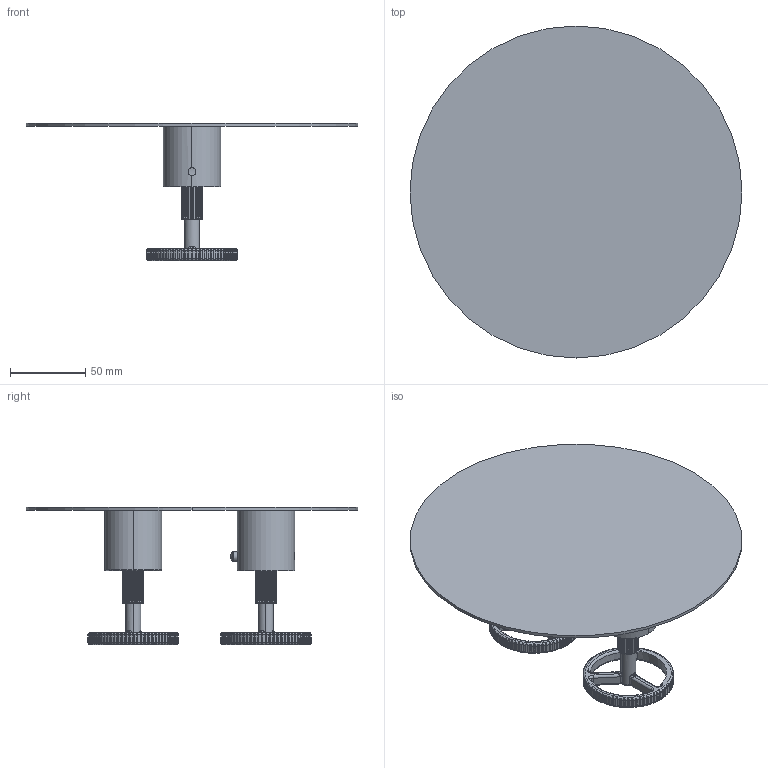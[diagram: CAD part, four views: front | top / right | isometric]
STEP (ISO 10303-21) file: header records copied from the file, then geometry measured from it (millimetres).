
FILE_DESCRIPTION (( 'STEP AP203' ), '1' );
FILE_NAME ('78240610 x architetti.STEP', '2023-09-19T06:37:11', ( '' ), ( '' ), 'SwSTEP 2.0', 'SolidWorks 2020', '' );
FILE_SCHEMA (( 'CONFIG_CONTROL_DESIGN' ));
Products named in the file (1): 78240610 x architetti
Bounding box: 220 x 220 x 91 mm (x, y, z)
Volume: 193415.3 mm3; surface area: 102057.1 mm2
Topology: 1 solids, 1 shells, 1644 faces, 4112 edges, 2465 vertices
Faces by surface type: cylinder 1021, bspline 314, torus 142, sphere 97, cone 48, plane 22
Entity records: 101223 total; most frequent: CARTESIAN_POINT 64053, ORIENTED_EDGE 8204, DIRECTION 7596, EDGE_CURVE 4102, AXIS2_PLACEMENT_3D 3267, VERTEX_POINT 2464, CIRCLE 1936, EDGE_LOOP 1660
